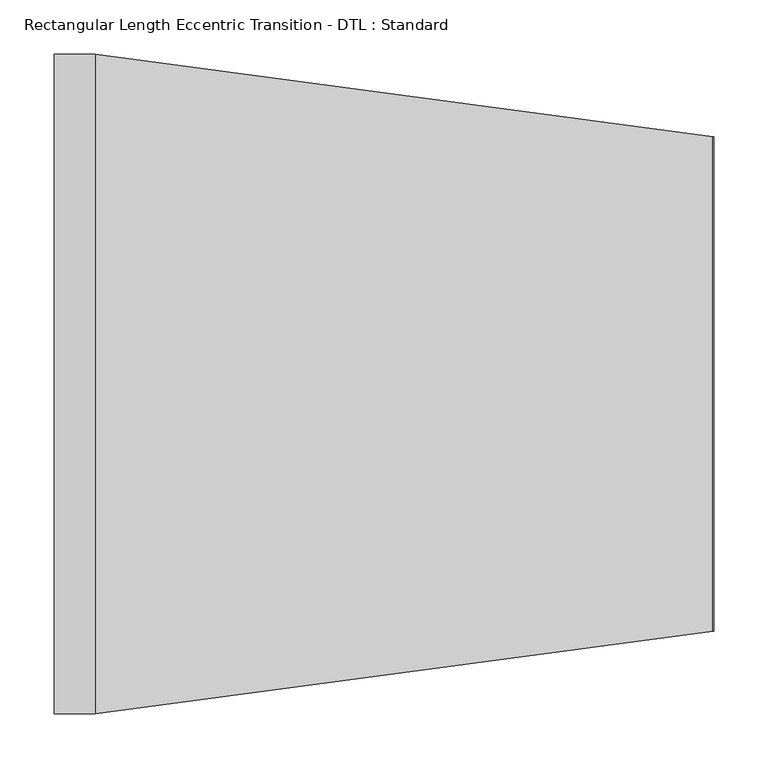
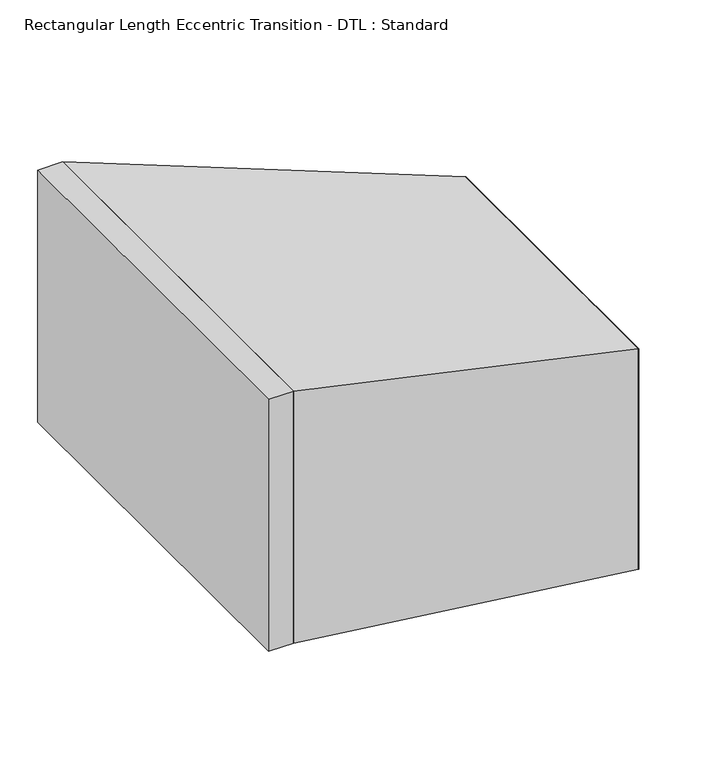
"""IFC4 building model written with IfcOpenShell, lengths in millimetres: duct fitting geometry, Rectangular Length Eccentric Transition - DTL : Standard."""

from ifc_helpers import new_model, si_unit, frame, origin, place, context, project, spatial, polyline, outline, extrude, faceted_brep, source, transform, mapped, element, save


def rectangular_length_eccentric_transition_dtl_standard_89f07ce4(model_context):
    return source(origin(), model_context, "Body", "SolidModel", [
        extrude(outline(polyline([(609.6, 228.6), (609.6, -228.6), (608.80625, -228.6), (608.80625, 228.6), (609.6, 228.6)])), frame((0.0, 0.0, -330.2), z_axis=(0.0, 0.0, 1.0), x_axis=(1.0, 0.0, 0.0)), (0.0, 0.0, 1.0), 355.6),
        extrude(outline(polyline([(38.1, 304.8), (38.1, -304.8), (0.0, -304.8), (0.0, 304.8), (38.1, 304.8)])), frame((0.0, 0.0, -203.2), z_axis=(0.0, 0.0, 1.0), x_axis=(1.0, 0.0, 0.0)), (0.0, 0.0, 1.0), 406.4),
        faceted_brep([(38.1, 304.8, 203.2), (38.1, 304.8, -203.2), (38.1, -304.8, -203.2), (38.1, -304.8, 203.2), (608.80625, 228.6, 25.4), (608.80625, -228.6, 25.4), (608.80625, -228.6, -330.2), (608.80625, 228.6, -330.2)], [[[0, 1, 2, 3]], [[4, 5, 6, 7]], [[4, 7, 1, 0]], [[7, 6, 2, 1]], [[6, 5, 3, 2]], [[5, 4, 0, 3]]]),
    ])


if __name__ == "__main__":
    model = new_model("IFC4")
    model_context = context("Model", 3, world=origin())
    ifc_project = project(units=[si_unit("LENGTHUNIT", "METRE", prefix="MILLI")], contexts=[model_context])
    site = spatial("IfcSite", under=ifc_project)
    building = spatial("IfcBuilding", under=site)
    placement = place(None, origin())
    rectangular_length_eccentric_transition_dtl_standard_shape = rectangular_length_eccentric_transition_dtl_standard_89f07ce4(model_context)
    element("IfcDuctFitting", 1, ObjectType="Rectangular Length Eccentric Transition - DTL : Standard", at=placement, inside=building, context=model_context, shape_type="MappedRepresentation", body=[
        mapped(rectangular_length_eccentric_transition_dtl_standard_shape, transform((0.0, 0.0, 0.0), x_axis=(1.0, 0.0, 0.0), y_axis=(0.0, 1.0, 0.0), z_axis=(0.0, 0.0, 1.0))),
    ])
    save(model, "model.ifc")
